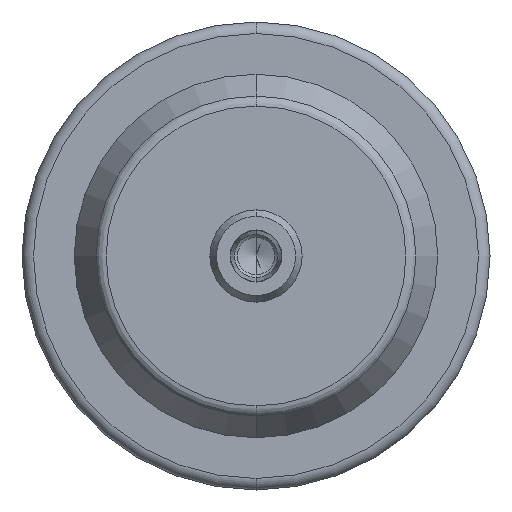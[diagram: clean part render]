
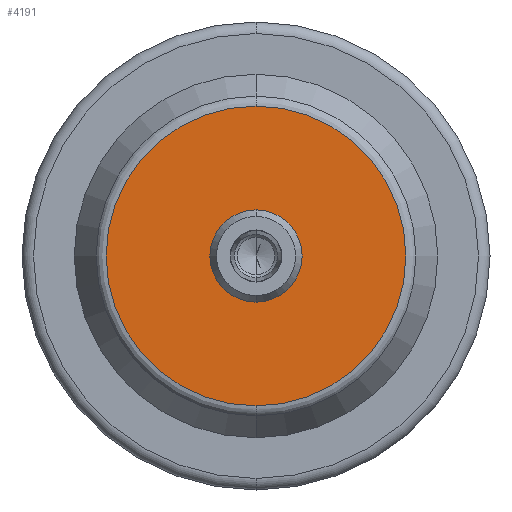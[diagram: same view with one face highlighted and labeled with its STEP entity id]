
A CAD part, front view. The second image highlights one B-rep face of the part: STEP entity #4191.
In plain terms, the highlighted planar face has unit normal (0, -1, 0).
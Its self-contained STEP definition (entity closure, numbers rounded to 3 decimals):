
#4 = AXIS2_PLACEMENT_3D ( 'NONE', #391, #1149, #9704 ) ;
#391 = CARTESIAN_POINT ( 'NONE',  ( 0., 0., 0. ) ) ;
#758 = EDGE_LOOP ( 'NONE', ( #4744, #2947 ) ) ;
#1149 = DIRECTION ( 'NONE',  ( 0., -1., 0. ) ) ;
#1164 = FACE_BOUND ( 'NONE', #4141, .T. ) ;
#1198 = AXIS2_PLACEMENT_3D ( 'NONE', #5022, #2651, #1900 ) ;
#1353 = VERTEX_POINT ( 'NONE', #8652 ) ;
#1894 = FACE_OUTER_BOUND ( 'NONE', #758, .T. ) ;
#1900 = DIRECTION ( 'NONE',  ( 0., 0., 1. ) ) ;
#2344 = AXIS2_PLACEMENT_3D ( 'NONE', #6708, #7477, #2856 ) ;
#2651 = DIRECTION ( 'NONE',  ( 0., 1., 0. ) ) ;
#2856 = DIRECTION ( 'NONE',  ( 0., 0., 1. ) ) ;
#2947 = ORIENTED_EDGE ( 'NONE', *, *, #8948, .F. ) ;
#3255 = CARTESIAN_POINT ( 'NONE',  ( 0., 0., 7.75 ) ) ;
#3656 = CARTESIAN_POINT ( 'NONE',  ( 0., 0., 0. ) ) ;
#3679 = CIRCLE ( 'NONE', #6283, 25.969 ) ;
#4141 = EDGE_LOOP ( 'NONE', ( #7535, #4633 ) ) ;
#4183 = CIRCLE ( 'NONE', #2344, 7.75 ) ;
#4191 = ADVANCED_FACE ( 'NONE', ( #1164, #1894 ), #4266, .T. ) ;
#4266 = PLANE ( 'NONE',  #4 ) ;
#4535 = CIRCLE ( 'NONE', #5885, 25.969 ) ;
#4633 = ORIENTED_EDGE ( 'NONE', *, *, #8199, .T. ) ;
#4744 = ORIENTED_EDGE ( 'NONE', *, *, #9282, .F. ) ;
#4797 = CARTESIAN_POINT ( 'NONE',  ( 0., 0., -25.969 ) ) ;
#5022 = CARTESIAN_POINT ( 'NONE',  ( 0., 0., 0. ) ) ;
#5174 = EDGE_CURVE ( 'NONE', #7202, #1353, #4183, .T. ) ;
#5251 = DIRECTION ( 'NONE',  ( 0., 1., 0. ) ) ;
#5437 = DIRECTION ( 'NONE',  ( 0., 0., 1. ) ) ;
#5885 = AXIS2_PLACEMENT_3D ( 'NONE', #9306, #9274, #5437 ) ;
#6035 = DIRECTION ( 'NONE',  ( 0., 0., 1. ) ) ;
#6283 = AXIS2_PLACEMENT_3D ( 'NONE', #3656, #5251, #6035 ) ;
#6708 = CARTESIAN_POINT ( 'NONE',  ( 0., 0., 0. ) ) ;
#6951 = CIRCLE ( 'NONE', #1198, 7.75 ) ;
#7202 = VERTEX_POINT ( 'NONE', #3255 ) ;
#7263 = VERTEX_POINT ( 'NONE', #7842 ) ;
#7477 = DIRECTION ( 'NONE',  ( 0., 1., 0. ) ) ;
#7535 = ORIENTED_EDGE ( 'NONE', *, *, #5174, .T. ) ;
#7842 = CARTESIAN_POINT ( 'NONE',  ( 0., 0., 25.969 ) ) ;
#8199 = EDGE_CURVE ( 'NONE', #1353, #7202, #6951, .T. ) ;
#8652 = CARTESIAN_POINT ( 'NONE',  ( 0., 0., -7.75 ) ) ;
#8870 = VERTEX_POINT ( 'NONE', #4797 ) ;
#8948 = EDGE_CURVE ( 'NONE', #8870, #7263, #4535, .T. ) ;
#9274 = DIRECTION ( 'NONE',  ( 0., 1., 0. ) ) ;
#9282 = EDGE_CURVE ( 'NONE', #7263, #8870, #3679, .T. ) ;
#9306 = CARTESIAN_POINT ( 'NONE',  ( 0., 0., 0. ) ) ;
#9704 = DIRECTION ( 'NONE',  ( 0., 0., -1. ) ) ;
